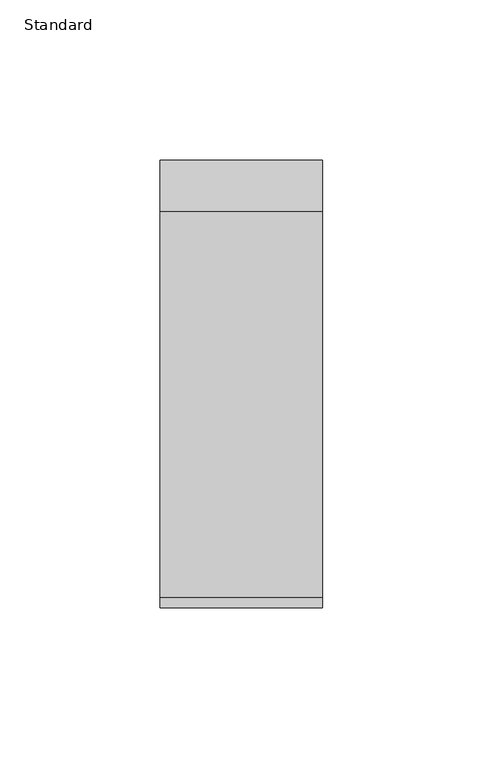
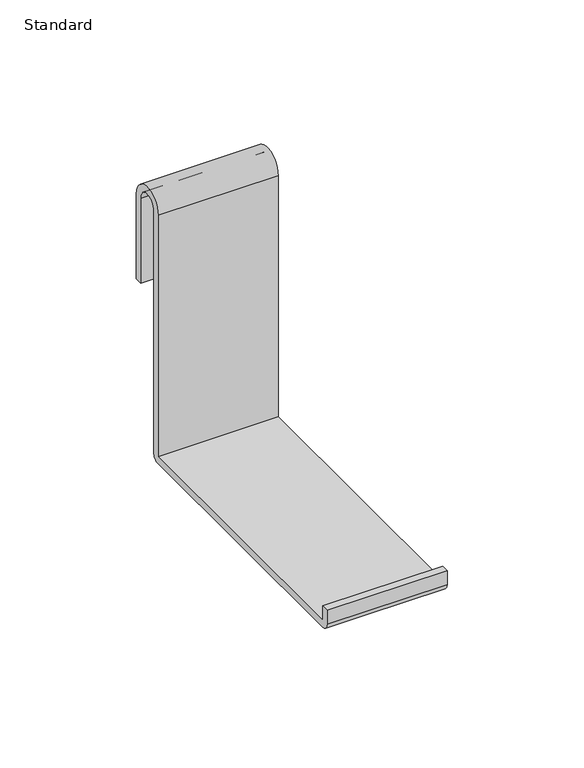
"""IFC4 building model written with IfcOpenShell, lengths in millimetres: electric appliance geometry, Cable_Tray_Accessory-Chatsworth-L_Bracket : Standard."""

from ifc_helpers import new_model, si_unit, point, frame, frame_2d, origin, origin_2d, place, context, project, spatial, polyline, circle_curve, trimmed, segment, composite_curve, outline, extrude, source, transform, mapped, element, save


def standard_cf8785e1(model_context):
    return source(origin(), model_context, "Body", "SweptSolid", [
        extrude(outline(composite_curve([segment(trimmed(circle_curve(origin_2d(), 4.7625), [point((4.7625, 0.0))], [point((-4.7625, 0.0))], True, "CARTESIAN"), True, "CONTINUOUS"), segment(polyline([(-4.7625, 0.0), (-4.7625, -107.95)]), True, "CONTINUOUS"), segment(trimmed(circle_curve(frame_2d((-7.9375, -107.95)), 3.175), [point((-4.7625, -107.95))], [point((-7.9375, -111.125))], False, "CARTESIAN"), True, "CONTINUOUS"), segment(polyline([(-7.9375, -111.125), (-128.5875, -111.125)]), True, "CONTINUOUS"), segment(trimmed(circle_curve(frame_2d((-128.5875, -107.95)), 3.175), [point((-128.5875, -111.125))], [point((-131.7625, -107.95))], False, "CARTESIAN"), True, "CONTINUOUS"), segment(polyline([(-131.7625, -107.95), (-131.7625, -101.6), (-128.5875, -101.6), (-128.5875, -107.95), (-7.9375, -107.95), (-7.9375, 0.0)]), True, "CONTINUOUS"), segment(trimmed(circle_curve(origin_2d(), 7.9375), [point((-7.9375, 0.0))], [point((7.9375, 0.0))], False, "CARTESIAN"), True, "CONTINUOUS"), segment(polyline([(7.9375, 0.0), (7.9375, -38.1), (4.7625, -38.1), (4.7625, 0.0)]), True, "CONTINUOUS")], self_intersect=False)), frame((-25.4, 0.0, 0.0), z_axis=(1.0, 0.0, 0.0), x_axis=(0.0, 1.0, 0.0)), (0.0, 0.0, 1.0), 50.8),
    ])


if __name__ == "__main__":
    model = new_model("IFC4")
    model_context = context("Model", 3, world=origin())
    ifc_project = project(units=[si_unit("LENGTHUNIT", "METRE", prefix="MILLI")], contexts=[model_context])
    site = spatial("IfcSite", under=ifc_project)
    building = spatial("IfcBuilding", under=site)
    placement = place(None, origin())
    standard_shape = standard_cf8785e1(model_context)
    element("IfcElectricAppliance", 1, ObjectType="Cable_Tray_Accessory-Chatsworth-L_Bracket : Standard", at=placement, inside=building, context=model_context, shape_type="MappedRepresentation", body=[
        mapped(standard_shape, transform((0.0, 0.0, 0.0), x_axis=(1.0, 0.0, 0.0), y_axis=(0.0, 1.0, 0.0), z_axis=(0.0, 0.0, 1.0))),
    ])
    save(model, "model.ifc")
